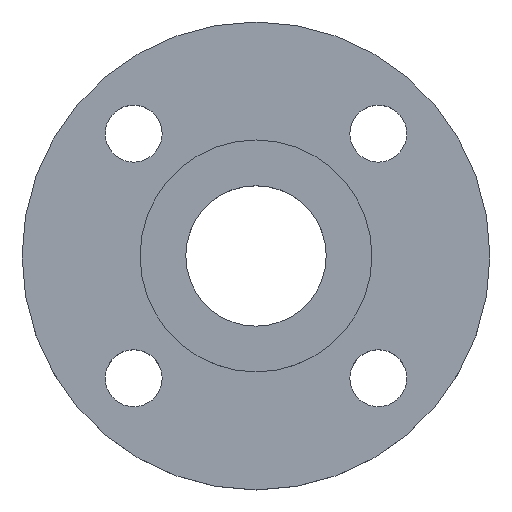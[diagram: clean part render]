
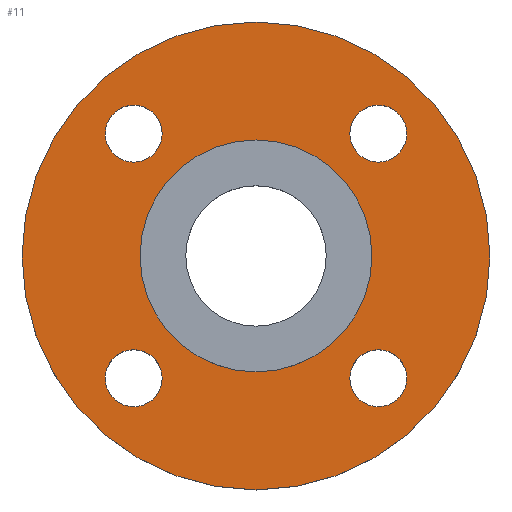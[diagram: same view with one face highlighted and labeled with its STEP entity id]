
A CAD part, top view. The second image highlights one B-rep face of the part: STEP entity #11.
In plain terms, the highlighted planar face has unit normal (0, 0, 1).
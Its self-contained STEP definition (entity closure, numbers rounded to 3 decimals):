
#10 = EDGE_CURVE ( 'NONE', #377, #243, #95, .T. ) ;
#11 = ADVANCED_FACE ( 'NONE', ( #414, #415, #417, #418, #419, #420 ), #421, .T. ) ;
#12 = CIRCLE ( 'NONE', #149, 7. ) ;
#15 = AXIS2_PLACEMENT_3D ( 'NONE', #507, #509, #510 ) ;
#18 = CIRCLE ( 'NONE', #73, 7. ) ;
#22 = AXIS2_PLACEMENT_3D ( 'NONE', #435, #436, #437 ) ;
#26 = EDGE_CURVE ( 'NONE', #395, #375, #124, .T. ) ;
#30 = CIRCLE ( 'NONE', #144, 28.5 ) ;
#31 = CIRCLE ( 'NONE', #126, 7. ) ;
#43 = AXIS2_PLACEMENT_3D ( 'NONE', #422, #423, #424 ) ;
#56 = EDGE_CURVE ( 'NONE', #374, #372, #31, .T. ) ;
#60 = CIRCLE ( 'NONE', #62, 7. ) ;
#62 = AXIS2_PLACEMENT_3D ( 'NONE', #215, #216, #217 ) ;
#73 = AXIS2_PLACEMENT_3D ( 'NONE', #578, #579, #580 ) ;
#79 = VERTEX_POINT ( 'NONE', #482 ) ;
#83 = CIRCLE ( 'NONE', #351, 57.5 ) ;
#92 = CIRCLE ( 'NONE', #294, 7. ) ;
#94 = AXIS2_PLACEMENT_3D ( 'NONE', #411, #412, #413 ) ;
#95 = CIRCLE ( 'NONE', #94, 7. ) ;
#117 = EDGE_CURVE ( 'NONE', #79, #191, #119, .T. ) ;
#119 = CIRCLE ( 'NONE', #15, 7. ) ;
#123 = CIRCLE ( 'NONE', #125, 57.5 ) ;
#124 = CIRCLE ( 'NONE', #22, 7. ) ;
#125 = AXIS2_PLACEMENT_3D ( 'NONE', #240, #241, #242 ) ;
#126 = AXIS2_PLACEMENT_3D ( 'NONE', #473, #474, #475 ) ;
#137 = CIRCLE ( 'NONE', #142, 28.5 ) ;
#142 = AXIS2_PLACEMENT_3D ( 'NONE', #218, #219, #220 ) ;
#144 = AXIS2_PLACEMENT_3D ( 'NONE', #189, #195, #196 ) ;
#149 = AXIS2_PLACEMENT_3D ( 'NONE', #553, #554, #555 ) ;
#175 = CARTESIAN_POINT ( 'NONE',  ( -37.052, 30.052, -4.5 ) ) ;
#177 = CARTESIAN_POINT ( 'NONE',  ( -23.052, 30.052, -4.5 ) ) ;
#178 = CARTESIAN_POINT ( 'NONE',  ( 37.052, -30.052, -4.5 ) ) ;
#182 = CARTESIAN_POINT ( 'NONE',  ( -23.052, -30.052, -4.5 ) ) ;
#184 = CARTESIAN_POINT ( 'NONE',  ( -28.5, 0., -4.5 ) ) ;
#189 = CARTESIAN_POINT ( 'NONE',  ( 0., 0., -4.5 ) ) ;
#191 = VERTEX_POINT ( 'NONE', #544 ) ;
#194 = VERTEX_POINT ( 'NONE', #545 ) ;
#195 = DIRECTION ( 'NONE',  ( 0., 0., -1. ) ) ;
#196 = DIRECTION ( 'NONE',  ( -1., 0., 0. ) ) ;
#202 = VERTEX_POINT ( 'NONE', #549 ) ;
#204 = CARTESIAN_POINT ( 'NONE',  ( 57.5, 0., -4.5 ) ) ;
#206 = CARTESIAN_POINT ( 'NONE',  ( 23.052, -30.052, -4.5 ) ) ;
#213 = EDGE_CURVE ( 'NONE', #372, #374, #12, .T. ) ;
#215 = CARTESIAN_POINT ( 'NONE',  ( -30.052, -30.052, -4.5 ) ) ;
#216 = DIRECTION ( 'NONE',  ( 0., 0., -1. ) ) ;
#217 = DIRECTION ( 'NONE',  ( 1., 0., 0. ) ) ;
#218 = CARTESIAN_POINT ( 'NONE',  ( 0., 0., -4.5 ) ) ;
#219 = DIRECTION ( 'NONE',  ( 0., 0., -1. ) ) ;
#220 = DIRECTION ( 'NONE',  ( -1., 0., 0. ) ) ;
#235 = CARTESIAN_POINT ( 'NONE',  ( 0., 0., -4.5 ) ) ;
#238 = DIRECTION ( 'NONE',  ( 0., 0., -1. ) ) ;
#239 = DIRECTION ( 'NONE',  ( -1., 0., 0. ) ) ;
#240 = CARTESIAN_POINT ( 'NONE',  ( 0., 0., -4.5 ) ) ;
#241 = DIRECTION ( 'NONE',  ( 0., 0., -1. ) ) ;
#242 = DIRECTION ( 'NONE',  ( -1., 0., 0. ) ) ;
#243 = VERTEX_POINT ( 'NONE', #565 ) ;
#250 = EDGE_CURVE ( 'NONE', #191, #79, #92, .T. ) ;
#274 = EDGE_CURVE ( 'NONE', #375, #395, #18, .T. ) ;
#282 = EDGE_LOOP ( 'NONE', ( #309, #310 ) ) ;
#294 = AXIS2_PLACEMENT_3D ( 'NONE', #566, #567, #568 ) ;
#309 = ORIENTED_EDGE ( 'NONE', *, *, #274, .T. ) ;
#310 = ORIENTED_EDGE ( 'NONE', *, *, #26, .T. ) ;
#311 = ORIENTED_EDGE ( 'NONE', *, *, #10, .T. ) ;
#312 = ORIENTED_EDGE ( 'NONE', *, *, #416, .T. ) ;
#313 = ORIENTED_EDGE ( 'NONE', *, *, #56, .T. ) ;
#314 = ORIENTED_EDGE ( 'NONE', *, *, #213, .T. ) ;
#315 = ORIENTED_EDGE ( 'NONE', *, *, #117, .T. ) ;
#316 = ORIENTED_EDGE ( 'NONE', *, *, #250, .T. ) ;
#317 = ORIENTED_EDGE ( 'NONE', *, *, #428, .T. ) ;
#318 = ORIENTED_EDGE ( 'NONE', *, *, #387, .T. ) ;
#319 = ORIENTED_EDGE ( 'NONE', *, *, #508, .F. ) ;
#320 = ORIENTED_EDGE ( 'NONE', *, *, #539, .F. ) ;
#324 = EDGE_LOOP ( 'NONE', ( #313, #314 ) ) ;
#325 = EDGE_LOOP ( 'NONE', ( #315, #316 ) ) ;
#331 = EDGE_LOOP ( 'NONE', ( #317, #318 ) ) ;
#341 = EDGE_LOOP ( 'NONE', ( #319, #320 ) ) ;
#351 = AXIS2_PLACEMENT_3D ( 'NONE', #235, #238, #239 ) ;
#372 = VERTEX_POINT ( 'NONE', #175 ) ;
#374 = VERTEX_POINT ( 'NONE', #177 ) ;
#375 = VERTEX_POINT ( 'NONE', #178 ) ;
#377 = VERTEX_POINT ( 'NONE', #182 ) ;
#380 = VERTEX_POINT ( 'NONE', #184 ) ;
#386 = EDGE_LOOP ( 'NONE', ( #311, #312 ) ) ;
#387 = EDGE_CURVE ( 'NONE', #202, #380, #30, .T. ) ;
#391 = VERTEX_POINT ( 'NONE', #204 ) ;
#395 = VERTEX_POINT ( 'NONE', #206 ) ;
#411 = CARTESIAN_POINT ( 'NONE',  ( -30.052, -30.052, -4.5 ) ) ;
#412 = DIRECTION ( 'NONE',  ( 0., 0., -1. ) ) ;
#413 = DIRECTION ( 'NONE',  ( 1., 0., 0. ) ) ;
#414 = FACE_BOUND ( 'NONE', #282, .T. ) ;
#415 = FACE_BOUND ( 'NONE', #386, .T. ) ;
#416 = EDGE_CURVE ( 'NONE', #243, #377, #60, .T. ) ;
#417 = FACE_BOUND ( 'NONE', #324, .T. ) ;
#418 = FACE_BOUND ( 'NONE', #325, .T. ) ;
#419 = FACE_BOUND ( 'NONE', #331, .T. ) ;
#420 = FACE_OUTER_BOUND ( 'NONE', #341, .T. ) ;
#421 = PLANE ( 'NONE',  #43 ) ;
#422 = CARTESIAN_POINT ( 'NONE',  ( 28.5, 0., -4.5 ) ) ;
#423 = DIRECTION ( 'NONE',  ( 0., 0., 1. ) ) ;
#424 = DIRECTION ( 'NONE',  ( 1., 0., 0. ) ) ;
#428 = EDGE_CURVE ( 'NONE', #380, #202, #137, .T. ) ;
#435 = CARTESIAN_POINT ( 'NONE',  ( 30.052, -30.052, -4.5 ) ) ;
#436 = DIRECTION ( 'NONE',  ( 0., 0., -1. ) ) ;
#437 = DIRECTION ( 'NONE',  ( 1., 0., 0. ) ) ;
#473 = CARTESIAN_POINT ( 'NONE',  ( -30.052, 30.052, -4.5 ) ) ;
#474 = DIRECTION ( 'NONE',  ( 0., 0., -1. ) ) ;
#475 = DIRECTION ( 'NONE',  ( 1., 0., 0. ) ) ;
#482 = CARTESIAN_POINT ( 'NONE',  ( 37.052, 30.052, -4.5 ) ) ;
#507 = CARTESIAN_POINT ( 'NONE',  ( 30.052, 30.052, -4.5 ) ) ;
#508 = EDGE_CURVE ( 'NONE', #391, #194, #83, .T. ) ;
#509 = DIRECTION ( 'NONE',  ( 0., 0., -1. ) ) ;
#510 = DIRECTION ( 'NONE',  ( 1., 0., 0. ) ) ;
#539 = EDGE_CURVE ( 'NONE', #194, #391, #123, .T. ) ;
#544 = CARTESIAN_POINT ( 'NONE',  ( 23.052, 30.052, -4.5 ) ) ;
#545 = CARTESIAN_POINT ( 'NONE',  ( -57.5, 0., -4.5 ) ) ;
#549 = CARTESIAN_POINT ( 'NONE',  ( 28.5, 0., -4.5 ) ) ;
#553 = CARTESIAN_POINT ( 'NONE',  ( -30.052, 30.052, -4.5 ) ) ;
#554 = DIRECTION ( 'NONE',  ( 0., 0., -1. ) ) ;
#555 = DIRECTION ( 'NONE',  ( 1., 0., 0. ) ) ;
#565 = CARTESIAN_POINT ( 'NONE',  ( -37.052, -30.052, -4.5 ) ) ;
#566 = CARTESIAN_POINT ( 'NONE',  ( 30.052, 30.052, -4.5 ) ) ;
#567 = DIRECTION ( 'NONE',  ( 0., 0., -1. ) ) ;
#568 = DIRECTION ( 'NONE',  ( 1., 0., 0. ) ) ;
#578 = CARTESIAN_POINT ( 'NONE',  ( 30.052, -30.052, -4.5 ) ) ;
#579 = DIRECTION ( 'NONE',  ( 0., 0., -1. ) ) ;
#580 = DIRECTION ( 'NONE',  ( 1., 0., 0. ) ) ;
